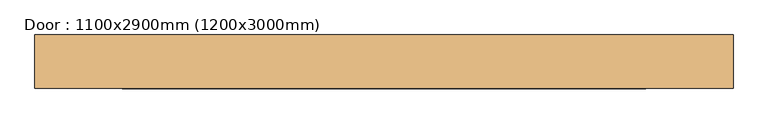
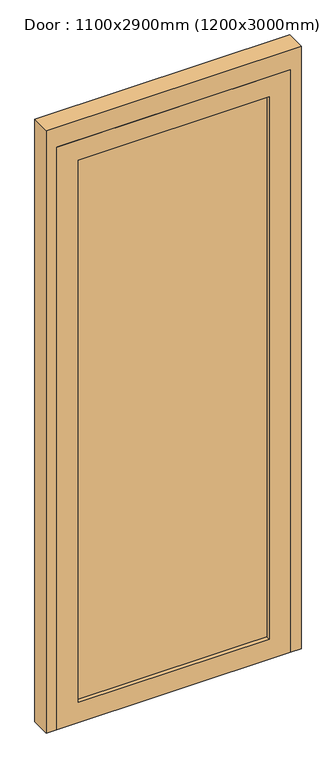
"""IFC4 building model written with IfcOpenShell, lengths in millimetres: door geometry, Door : 1100x2900mm (1200x3000mm)."""

from ifc_helpers import new_model, si_unit, frame, origin, place, context, project, spatial, polyline, outline, extrude, source, transform, mapped, element, save


def door_1100x2900mm_1200x3000mm_8766706f(model_context):
    return source(origin(), model_context, "Body", "SweptSolid", [
        extrude(outline(polyline([(450.0, -205.0), (-450.0, -205.0), (-450.0, -153.0), (450.0, -153.0), (450.0, -205.0)])), frame((0.0, 0.0, 100.0), z_axis=(0.0, 0.0, 1.0), x_axis=(1.0, 0.0, 0.0)), (0.0, 0.0, 1.0), 2700.0),
        extrude(outline(polyline([(2900.0, 550.0), (2900.0, -550.0), (0.0, -550.0), (0.0, 550.0), (2900.0, 550.0)]), holes=[polyline([(2800.0, 450.0), (100.0, 450.0), (100.0, -450.0), (2800.0, -450.0), (2800.0, 450.0)])]), frame((0.0, -225.0, 0.0), z_axis=(0.0, 1.0, 0.0), x_axis=(0.0, 0.0, 1.0)), (0.0, 0.0, 1.0), 92.0),
        extrude(outline(polyline([(3000.0, -600.0), (0.0, -600.0), (0.0, -550.0), (2900.0, -550.0), (2900.0, 550.0), (0.0, 550.0), (0.0, 600.0), (3000.0, 600.0), (3000.0, -600.0)])), frame((0.0, -225.0, 0.0), z_axis=(0.0, 1.0, 0.0), x_axis=(0.0, 0.0, 1.0)), (0.0, 0.0, 1.0), 92.0),
    ])


if __name__ == "__main__":
    model = new_model("IFC4")
    model_context = context("Model", 3, world=origin())
    ifc_project = project(units=[si_unit("LENGTHUNIT", "METRE", prefix="MILLI")], contexts=[model_context])
    site = spatial("IfcSite", under=ifc_project)
    building = spatial("IfcBuilding", under=site)
    placement = place(None, origin())
    door_1100x2900mm_1200x3000mm_shape = door_1100x2900mm_1200x3000mm_8766706f(model_context)
    element("IfcDoor", 1, ObjectType="Door : 1100x2900mm (1200x3000mm)", at=placement, inside=building, context=model_context, shape_type="MappedRepresentation", body=[
        mapped(door_1100x2900mm_1200x3000mm_shape, transform((0.0, 0.0, 0.0), x_axis=(1.0, 0.0, 0.0), y_axis=(0.0, 1.0, 0.0), z_axis=(0.0, 0.0, 1.0))),
    ])
    save(model, "model.ifc")
